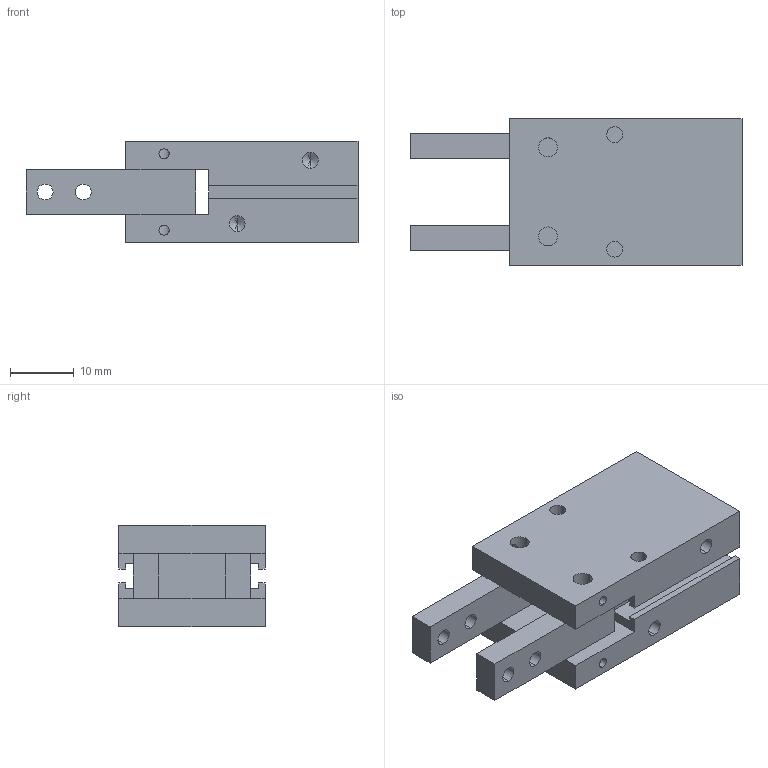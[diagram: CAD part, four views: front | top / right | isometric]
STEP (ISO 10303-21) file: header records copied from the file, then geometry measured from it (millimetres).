
FILE_DESCRIPTION (( 'STEP AP203' ), '1' );
FILE_NAME ('FCHY-10.STEP', '2016-03-29T06:20:54', ( 'Sam Lin' ), ( '' ), 'SwSTEP 2.0', 'SolidWorks 2013', '' );
FILE_SCHEMA (( 'CONFIG_CONTROL_DESIGN' ));
Length unit declared in the file: millimetre
Products named in the file (1): FCHY-10
Bounding box: 52.2 x 23 x 16 mm (x, y, z)
Volume: 11376.5 mm3; surface area: 6254.1 mm2
Topology: 1 solids, 1 shells, 97 faces, 262 edges, 162 vertices
Faces by surface type: plane 43, cylinder 42, cone 12
Entity records: 3193 total; most frequent: CARTESIAN_POINT 646, DIRECTION 514, ORIENTED_EDGE 500, EDGE_CURVE 250, AXIS2_PLACEMENT_3D 174, LINE 166, VECTOR 166, VERTEX_POINT 162
